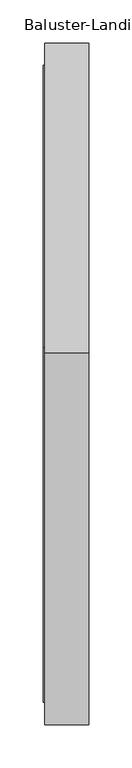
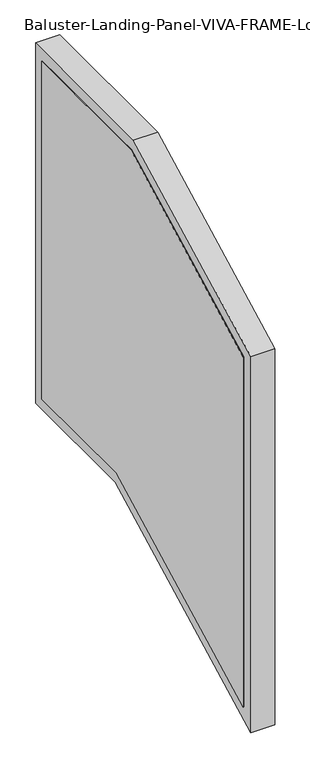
"""IFC4 building model written with IfcOpenShell, lengths in millimetres: railing geometry, Baluster-Landing-Panel-VIVA-FRAME-Lower : Standard_PP01."""

import ifcopenshell
import ifcopenshell.guid

model = None  # the IFC model being written
_history = None  # IfcOwnerHistory: only IFC2X3 demands one
_inside = {}  # id of a spatial element -> (the spatial element, [elements in it])
_under = {}  # id of a project, library or spatial element -> (it, [spatial elements below it])
_declared = {}  # id of a project -> (the project, [libraries it declares])
_typed = {}  # id of a type object -> (the type object, [elements of that type])
_made_of = {}  # id of a material, layer set ... -> (it, [elements and type objects made of it])


def new_model(schema):
    """Start an empty IFC model of exactly this schema.

    Asked for "IFC4X3", IfcOpenShell would pick the latest addendum, in which some entities
    have other attributes; the version numbers below select the first issue.
    IFC2X3 requires an IfcOwnerHistory on every rooted entity: one is made here for all.
    """
    global model, _history
    if schema == "IFC4X3":
        model = ifcopenshell.file(schema_version=(4, 3, 0, 0))
    else:
        model = ifcopenshell.file(schema=schema)
    _inside.clear()
    _under.clear()
    _declared.clear()
    _typed.clear()
    _made_of.clear()
    _history = None
    if model.schema == "IFC2X3":
        org = make("IfcOrganization", Name="unknown")
        user = make(
            "IfcPersonAndOrganization",
            ThePerson=make("IfcPerson", FamilyName="unknown"),
            TheOrganization=org,
        )
        app = make(
            "IfcApplication",
            ApplicationDeveloper=org,
            Version="unknown",
            ApplicationFullName="unknown",
            ApplicationIdentifier="unknown",
        )
        _history = make(
            "IfcOwnerHistory",
            OwningUser=user,
            OwningApplication=app,
            ChangeAction="ADDED",
            CreationDate=0,
        )
    return model


def make(cls, **values):
    """One entity of the class cls with the attributes given. An attribute that is None is left unset."""
    return model.create_entity(
        cls, **{name: value for name, value in values.items() if value is not None}
    )


def rooted(cls, **values):
    """An entity with a GlobalId (a new one), such as an element, a storey or a relation."""
    return make(cls, GlobalId=ifcopenshell.guid.new(), OwnerHistory=_history, **values)


def si_unit(unit_type, name, prefix=None):
    """IfcSIUnit, for example si_unit("LENGTHUNIT", "METRE", prefix="MILLI")."""
    return make("IfcSIUnit", UnitType=unit_type, Prefix=prefix, Name=name)


def assignment(units):
    """IfcUnitAssignment: the units of a project."""
    return None if units is None else make("IfcUnitAssignment", Units=units)


def point(xyz):
    """IfcCartesianPoint."""
    return None if xyz is None else make("IfcCartesianPoint", Coordinates=xyz)


def direction(xyz):
    """IfcDirection."""
    return None if xyz is None else make("IfcDirection", DirectionRatios=xyz)


def frame(location, z_axis=None, x_axis=None):
    """IfcAxis2Placement3D, a coordinate frame: its origin and axes. An axis left out is left unset."""
    return make(
        "IfcAxis2Placement3D",
        Location=point(location),
        Axis=direction(z_axis),
        RefDirection=direction(x_axis),
    )


def origin():
    """The frame at (0, 0, 0) with its axes left unset."""
    return frame((0.0, 0.0, 0.0))


def place(relative_to, where):
    """IfcLocalPlacement: puts the frame where relative to a parent placement (None: the world)."""
    return make(
        "IfcLocalPlacement", PlacementRelTo=relative_to, RelativePlacement=where
    )


def context(
    kind, dimensions, precision=None, world=None, true_north=None, identifier=None
):
    """IfcGeometricRepresentationContext, for example the 3D "Model" context."""
    return make(
        "IfcGeometricRepresentationContext",
        ContextIdentifier=identifier,
        ContextType=kind,
        CoordinateSpaceDimension=dimensions,
        Precision=precision,
        WorldCoordinateSystem=world,
        TrueNorth=true_north,
    )


def project(units=None, contexts=None):
    """IfcProject with its units and contexts."""
    return rooted(
        "IfcProject",
        Name="project",
        RepresentationContexts=contexts,
        UnitsInContext=assignment(units),
    )


def spatial(cls, under=None, at=None, **own):
    """A site, building, storey or space (cls), placed at a placement, below another one or the project."""
    s = rooted(cls, ObjectPlacement=at, **own)
    if under is not None:
        _under.setdefault(under.id(), (under, []))[1].append(s)
    return s


def polyline(points):
    """IfcPolyline through the points."""
    return make("IfcPolyline", Points=[point(p) for p in points])


def outline(outer, holes=None, kind="AREA"):
    """IfcArbitraryClosedProfileDef: a profile drawn as a closed curve; with holes, ...WithVoids."""
    if holes is None:
        return make("IfcArbitraryClosedProfileDef", ProfileType=kind, OuterCurve=outer)
    return make(
        "IfcArbitraryProfileDefWithVoids",
        ProfileType=kind,
        OuterCurve=outer,
        InnerCurves=holes,
    )


def extrude(swept, where, along, depth):
    """IfcExtrudedAreaSolid: the profile swept, set in the frame where, extruded along a direction by depth."""
    return make(
        "IfcExtrudedAreaSolid",
        SweptArea=swept,
        Position=where,
        ExtrudedDirection=direction(along),
        Depth=depth,
    )


def faces_of(points, faces, orient=None, outer=None):
    """IfcFace entities. A face is a list of loops; a loop is a list of indices into points, from 0.

    orient and outer hold one flag for each loop. By default every Orientation is true, the
    first loop of a face is its IfcFaceOuterBound and the others are IfcFaceBound.
    """
    made = []
    for i, loops in enumerate(faces):
        bounds = []
        for j, loop in enumerate(loops):
            is_outer = j == 0 if outer is None else outer[i][j]
            bounds.append(
                make(
                    "IfcFaceOuterBound" if is_outer else "IfcFaceBound",
                    Bound=make("IfcPolyLoop", Polygon=[points[k] for k in loop]),
                    Orientation=True if orient is None else orient[i][j],
                )
            )
        made.append(make("IfcFace", Bounds=bounds))
    return made


def faceted_brep(points, faces, orient=None, outer=None, voids=None):
    """IfcFacetedBrep: a solid bounded by flat faces; with voids (closed shells), ...WithVoids."""
    shared = [point(p) for p in points]
    hull = make("IfcClosedShell", CfsFaces=faces_of(shared, faces, orient, outer))
    if voids is None:
        return make("IfcFacetedBrep", Outer=hull)
    return make(
        "IfcFacetedBrepWithVoids",
        Outer=hull,
        Voids=[
            make(cls, CfsFaces=faces_of(shared, fs, o, b)) for cls, fs, o, b in voids
        ],
    )


def shape(context_of_items, identifier, shape_type, items):
    """IfcShapeRepresentation: the items that make up one representation, for example the "Body"."""
    return make(
        "IfcShapeRepresentation",
        ContextOfItems=context_of_items,
        RepresentationIdentifier=identifier,
        RepresentationType=shape_type,
        Items=items,
    )


def source(mapping_origin, context_of_items, identifier, shape_type, items):
    """IfcRepresentationMap: a shape defined once, which mapped items show again and again."""
    return make(
        "IfcRepresentationMap",
        MappingOrigin=mapping_origin,
        MappedRepresentation=shape(context_of_items, identifier, shape_type, items),
    )


def transform(
    local_origin,
    x_axis=None,
    y_axis=None,
    z_axis=None,
    scale=None,
    scale2=None,
    scale3=None,
    uniform=True,
):
    """IfcCartesianTransformationOperator3D, or its non-uniform kind. x_axis, y_axis, z_axis: its Axis1, 2, 3."""
    if uniform:
        return make(
            "IfcCartesianTransformationOperator3D",
            Axis1=direction(x_axis),
            Axis2=direction(y_axis),
            LocalOrigin=point(local_origin),
            Scale=scale,
            Axis3=direction(z_axis),
        )
    return make(
        "IfcCartesianTransformationOperator3DnonUniform",
        Axis1=direction(x_axis),
        Axis2=direction(y_axis),
        LocalOrigin=point(local_origin),
        Scale=scale,
        Axis3=direction(z_axis),
        Scale2=scale2,
        Scale3=scale3,
    )


def mapped(mapping_source, mapping_target):
    """IfcMappedItem: shows the shape of a source again, moved by a transform."""
    return make(
        "IfcMappedItem", MappingSource=mapping_source, MappingTarget=mapping_target
    )


def made_of(thing, what):
    """Note that an element or type object is made of a material, layer set ...; save() writes the relation."""
    if what is not None:
        _made_of.setdefault(what.id(), (what, []))[1].append(thing)
    return thing


def element(
    cls,
    number,
    at=None,
    inside=None,
    cuts=None,
    type_object=None,
    material=None,
    context=None,
    identifier="Body",
    shape_type=None,
    held_by="IfcProductDefinitionShape",
    body=None,
    shapes=None,
    **own,
):
    """One element of the class cls, such as IfcWall. Its Tag is "e" and its number.

    at: its placement. inside: the storey or other place that contains it. cuts: it is an
    opening in that element (IfcRelVoidsElement). A single representation is given by context,
    identifier, shape_type and body (its items); several are given by shapes. held_by: the class
    of the entity that holds the representations. save() writes the other relations.
    """
    e = rooted(cls, Tag="e%d" % number, ObjectPlacement=at, **own)
    if body is not None:
        shapes = [shape(context, identifier, shape_type, body)]
    if shapes is not None:
        e.Representation = make(held_by, Representations=shapes)
    if inside is not None:
        _inside.setdefault(inside.id(), (inside, []))[1].append(e)
    if cuts is not None:
        rooted(
            "IfcRelVoidsElement", RelatingBuildingElement=cuts, RelatedOpeningElement=e
        )
    if type_object is not None:
        _typed.setdefault(type_object.id(), (type_object, []))[1].append(e)
    return made_of(e, material)


def aggregate(whole, parts):
    """IfcRelAggregates: a whole, such as a stair, and the parts it consists of."""
    return rooted("IfcRelAggregates", RelatingObject=whole, RelatedObjects=parts)


def save(model, path):
    """Write the relations noted so far, then the file.

    IfcRelAggregates (storeys below a building ...), IfcRelContainedInSpatialStructure (elements
    in a storey), IfcRelDefinesByType, IfcRelAssociatesMaterial and IfcRelDeclares: one each for
    every whole, place, type object, material and project.
    """
    for whole, parts in _under.values():
        aggregate(whole, parts)
    for where, things in _inside.values():
        rooted(
            "IfcRelContainedInSpatialStructure",
            RelatedElements=things,
            RelatingStructure=where,
        )
    for kind, things in _typed.values():
        rooted("IfcRelDefinesByType", RelatedObjects=things, RelatingType=kind)
    for what, things in _made_of.values():
        rooted("IfcRelAssociatesMaterial", RelatedObjects=things, RelatingMaterial=what)
    for by, libraries in _declared.values():
        rooted("IfcRelDeclares", RelatingContext=by, RelatedDefinitions=libraries)
    model.write(path)


def baluster_landing_panel_viva_frame_lower_standard_pp01_9d421a16(model_context):
    return source(origin(), model_context, "Body", "SolidModel", [
        extrude(outline(polyline([(488.850376, 153.6978972), (25.4, -87.5590982), (25.4, 693.147924), (434.563576, 906.145), (760.2573138, 906.145), (760.2573138, 153.6978972), (488.850376, 153.6978972)])), frame((14.2584857, 0.0, 0.0), z_axis=(1.0, 0.0, 0.0), x_axis=(0.0, 1.0, 0.0)), (0.0, 0.0, 1.0), 2.9972),
        faceted_brep([(35.6827057, 5.9329371, -119.639825), (35.6827057, 5.9329371, 704.9608278), (66.4929057, 5.9329371, 704.9608278), (66.4929057, 5.9329371, -119.639825), (15.6929057, 50.7385371, -45.8024814), (15.6929057, 50.7385371, 677.7721223), (35.6827057, 50.7385371, 677.7721223), (35.6827057, 50.7385371, -45.8024814), (66.4929057, -0.0614629, -129.5182905), (66.4929057, -0.0614629, 708.598319), (15.6929057, -0.0614629, 708.598319), (15.6929057, -0.0614629, -129.5182905), (35.6827057, 429.8000161, 925.6120629), (66.4929057, 429.8000161, 925.6120629), (15.6929057, 440.7638766, 880.8064629), (35.6827057, 440.7638766, 880.8064629), (66.4929057, 428.3331957, 931.6064629), (15.6929057, 428.3331957, 931.6064629), (35.6827057, 779.7243768, 925.6120629), (66.4929057, 779.7243768, 925.6120629), (15.6929057, 734.9187768, 880.8064629), (35.6827057, 734.9187768, 880.8064629), (66.4929057, 785.7187768, 931.6064629), (15.6929057, 785.7187768, 931.6064629), (35.6827057, 779.7243768, 134.2308342), (66.4929057, 779.7243768, 134.2308342), (15.6929057, 734.9187768, 179.0364342), (35.6827057, 734.9187768, 179.0364342), (66.4929057, 785.7187768, 128.2364342), (15.6929057, 785.7187768, 128.2364342), (35.6827057, 493.613936, 134.2308342), (66.4929057, 493.613936, 134.2308342), (15.6929057, 482.6500755, 179.0364342), (35.6827057, 482.6500755, 179.0364342), (66.4929057, 495.0807564, 128.2364342), (15.6929057, 495.0807564, 128.2364342)], [[[0, 1, 2, 3]], [[4, 5, 6, 7]], [[8, 9, 10, 11]], [[1, 12, 13, 2]], [[5, 14, 15, 6]], [[9, 16, 17, 10]], [[12, 18, 19, 13]], [[14, 20, 21, 15]], [[16, 22, 23, 17]], [[18, 24, 25, 19]], [[20, 26, 27, 21]], [[22, 28, 29, 23]], [[24, 30, 31, 25]], [[26, 32, 33, 27]], [[28, 34, 35, 29]], [[22, 16, 9, 8, 34, 28], [3, 2, 13, 19, 25, 31]], [[30, 0, 3, 31]], [[18, 12, 1, 0, 30, 24], [7, 6, 15, 21, 27, 33]], [[32, 4, 7, 33]], [[11, 10, 17, 23, 29, 35], [20, 14, 5, 4, 32, 26]], [[34, 8, 11, 35]]]),
    ])


if __name__ == "__main__":
    model = new_model("IFC4")
    model_context = context("Model", 3, world=origin())
    ifc_project = project(units=[si_unit("LENGTHUNIT", "METRE", prefix="MILLI")], contexts=[model_context])
    site = spatial("IfcSite", under=ifc_project)
    building = spatial("IfcBuilding", under=site)
    placement = place(None, origin())
    baluster_landing_panel_viva_frame_lower_standard_pp01_shape = baluster_landing_panel_viva_frame_lower_standard_pp01_9d421a16(model_context)
    element("IfcRailing", 1, ObjectType="Baluster-Landing-Panel-VIVA-FRAME-Lower : Standard_PP01", at=placement, inside=building, context=model_context, shape_type="MappedRepresentation", body=[
        mapped(baluster_landing_panel_viva_frame_lower_standard_pp01_shape, transform((0.0, 0.0, 0.0), x_axis=(1.0, 0.0, 0.0), y_axis=(0.0, 1.0, 0.0), z_axis=(0.0, 0.0, 1.0))),
    ])
    save(model, "model.ifc")
